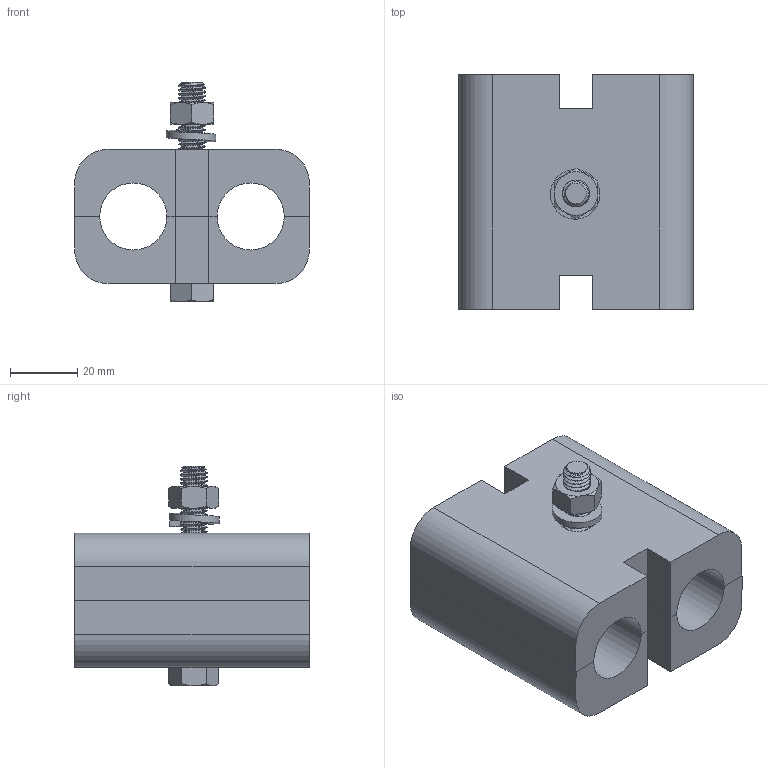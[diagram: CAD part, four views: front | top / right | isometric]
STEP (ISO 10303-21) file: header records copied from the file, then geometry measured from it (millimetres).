
FILE_DESCRIPTION(/* description */ (''),/* implementation_level */ '2;1');
FILE_NAME(/* name */ 'GE-IBER.step',/* time_stamp */ '2025-12-16T17:11:44+03:00',/* author */ (''),/* organization */ (''),/* preprocessor_version */ 'ST-DEVELOPER v20.1',/* originating_system */ 'Autodesk Translation Framework v14.21.0.0',/* authorisation */ '');
FILE_SCHEMA (('AUTOMOTIVE_DESIGN { 1 0 10303 214 3 1 1 }'));
Length unit declared in the file: millimetre
Products named in the file (5): GE-IBER; GE-IBER-2; 91280A090_Medium-Strength Class 8.8 Steel Hex Head Screw; 92148A200_18-8 Stainless Steel Split Lock Washer; 90592A022_Steel Hex Nut
Assembly tree (4 placements, depth 2):
  GE-IBER
    GE-IBER-2
    91280A090_Medium-Strength Class 8.8 Steel Hex Head Screw
    92148A200_18-8 Stainless Steel Split Lock Washer
    90592A022_Steel Hex Nut
Bounding box: 70 x 70 x 65.4 mm (x, y, z)
Volume: 139011.5 mm3; surface area: 37085.8 mm2
Topology: 5 solids, 5 shells, 240 faces, 645 edges, 423 vertices
Faces by surface type: cylinder 113, plane 62, bspline 40, cone 25
Full cylindrical faces by diameter (mm): 6.376 x46, 8 x50, 10 x2
Entity records: 18460 total; most frequent: CARTESIAN_POINT 13144, ORIENTED_EDGE 1290, DIRECTION 792, EDGE_CURVE 645, VERTEX_POINT 423, LINE 268, VECTOR 268, AXIS2_PLACEMENT_3D 262
